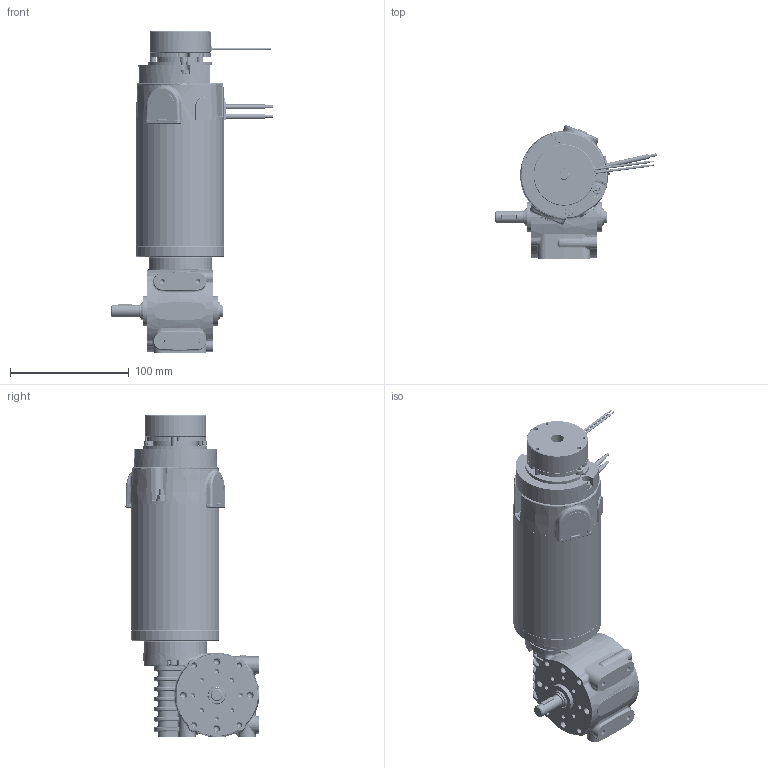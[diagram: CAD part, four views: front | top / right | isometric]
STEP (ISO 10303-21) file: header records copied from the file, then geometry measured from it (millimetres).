
FILE_DESCRIPTION (( 'STEP AP214' ), '1' );
FILE_NAME ('BRx70-60-GB80 - Diff Encoder - Brake - Shaft.STEP', '2025-09-10T15:02:17', ( '' ), ( '' ), 'SwSTEP 2.0', 'SolidWorks 2023', '' );
FILE_SCHEMA (( 'AUTOMOTIVE_DESIGN' ));
Length unit declared in the file: millimetre
Products named in the file (1): BRx70-60-GB80 - Diff Encoder - Brake - Shaft
Bounding box: 136.02 x 111.85 x 270.24 mm (x, y, z)
Volume: 553194.2 mm3; surface area: 254095.1 mm2
Topology: 66 solids, 66 shells, 12010 faces, 31905 edges, 20618 vertices
Faces by surface type: plane 5636, cylinder 4332, cone 789, bspline 674, torus 503, sphere 76
Entity records: 549430 total; most frequent: CARTESIAN_POINT 120256, ORIENTED_EDGE 63464, DIRECTION 60381, EDGE_CURVE 31732, AXIS2_PLACEMENT_3D 20982, VERTEX_POINT 20618, VECTOR 18417, LINE 18417
